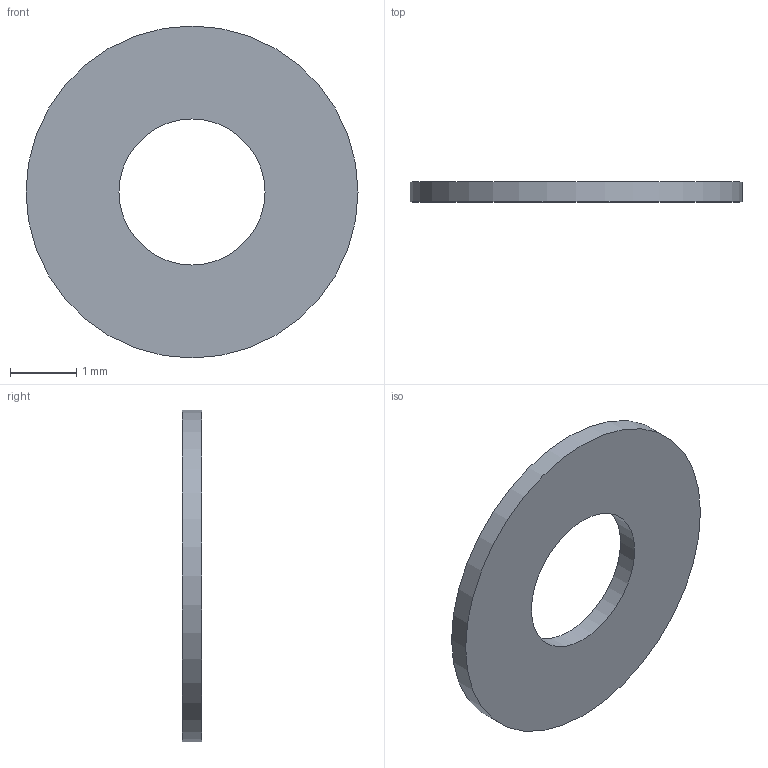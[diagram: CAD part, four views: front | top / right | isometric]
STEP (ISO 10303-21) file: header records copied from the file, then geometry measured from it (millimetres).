
FILE_DESCRIPTION(('Open CASCADE Model'),'2;1');
FILE_NAME('Open CASCADE Shape Model','2026-11-23T18:10:00',('Author'),( 'Open CASCADE'),'Open CASCADE STEP processor 8.0','build123d', 'Unknown');
FILE_SCHEMA(('AUTOMOTIVE_DESIGN { 1 0 10303 214 1 1 1 1 }'));
Length unit declared in the file: millimetre
Products named in the file (1): SOLID
Bounding box: 5 x 0.3 x 5 mm (x, y, z)
Volume: 4.8 mm3; surface area: 38.5 mm2
Topology: 1 solids, 1 shells, 4 faces, 6 edges, 4 vertices
Faces by surface type: cylinder 2, plane 2
Full cylindrical faces by diameter (mm): 2.2 x1, 5 x1
Entity records: 186 total; most frequent: DIRECTION 32, CARTESIAN_POINT 27, ORIENTED_EDGE 12, PCURVE 12, DEFINITIONAL_REPRESENTATION 12, LINE 10, VECTOR 10, AXIS2_PLACEMENT_3D 9
